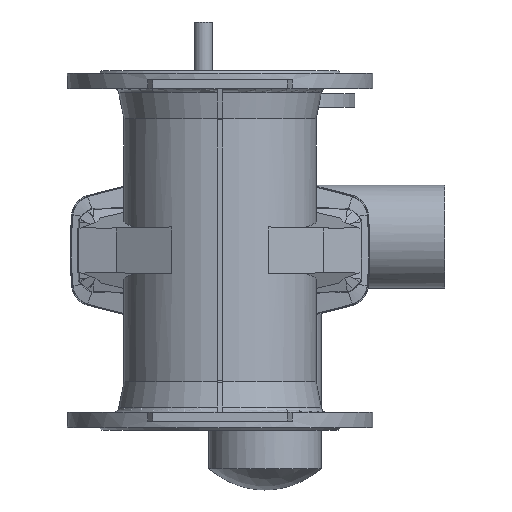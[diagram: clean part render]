
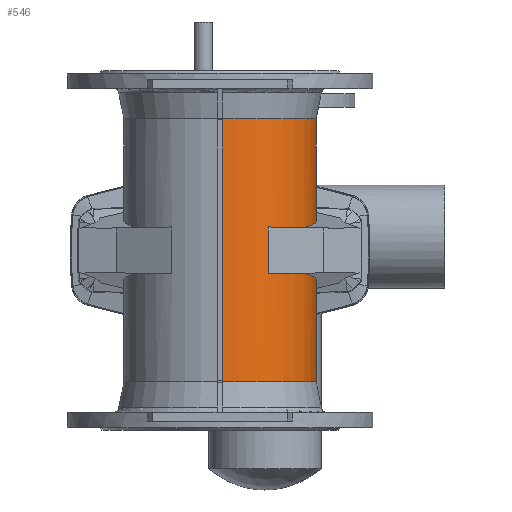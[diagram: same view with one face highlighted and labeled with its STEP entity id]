
A CAD part, front view. The second image highlights one B-rep face of the part: STEP entity #546.
In plain terms, the highlighted cylindrical face has radius 107 mm (diameter 214 mm), a partial arc.
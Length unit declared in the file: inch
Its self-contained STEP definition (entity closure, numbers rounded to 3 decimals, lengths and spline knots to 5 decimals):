
#546 = ADVANCED_FACE ( 'NONE', ( #10055 ), #10062, .T. ) ;
#980 = EDGE_CURVE ( 'NONE', #12946, #12922, #9643, .T. ) ;
#981 = EDGE_CURVE ( 'NONE', #12921, #12970, #7189, .T. ) ;
#982 = EDGE_CURVE ( 'NONE', #12946, #12989, #7188, .T. ) ;
#983 = EDGE_CURVE ( 'NONE', #9380, #12921, #9644, .T. ) ;
#984 = EDGE_CURVE ( 'NONE', #12922, #12970, #9645, .T. ) ;
#2372 = CARTESIAN_POINT ( 'NONE',  ( 0.11811, -4.21094, 0. ) ) ;
#2374 = DIRECTION ( 'NONE',  ( 0., 0., 1. ) ) ;
#2410 = CARTESIAN_POINT ( 'NONE',  ( 0., 0., -5.75916 ) ) ;
#2411 = DIRECTION ( 'NONE',  ( 0., 0., -1. ) ) ;
#2412 = DIRECTION ( 'NONE',  ( -1., 0., 0. ) ) ;
#2421 = CARTESIAN_POINT ( 'NONE',  ( 0.11811, 4.21094, 1.9474 ) ) ;
#2422 = CARTESIAN_POINT ( 'NONE',  ( 3.68193, 4.11098, 1.87054 ) ) ;
#2429 = DIRECTION ( 'NONE',  ( 0., 0., 1. ) ) ;
#2430 = CARTESIAN_POINT ( 'NONE',  ( 0.11811, 4.21094, 0. ) ) ;
#2431 = CARTESIAN_POINT ( 'NONE',  ( 5.42704, 1.00205, 1.40285 ) ) ;
#2432 = CARTESIAN_POINT ( 'NONE',  ( 3.65625, -2.09232, 0.99917 ) ) ;
#2443 = CARTESIAN_POINT ( 'NONE',  ( 0., 0., 5.75916 ) ) ;
#2444 = DIRECTION ( 'NONE',  ( 0., 0., -1. ) ) ;
#2445 = DIRECTION ( 'NONE',  ( -1., 0., 0. ) ) ;
#4042 = DIRECTION ( 'NONE',  ( -1., 0., 0. ) ) ;
#4049 = DIRECTION ( 'NONE',  ( 0., 0., 1. ) ) ;
#4050 = CARTESIAN_POINT ( 'NONE',  ( 0., 0., 0. ) ) ;
#4245 = CARTESIAN_POINT ( 'NONE',  ( 0.11811, 4.21094, 0. ) ) ;
#4247 = CARTESIAN_POINT ( 'NONE',  ( 2.1063, -3.64822, 7.87402 ) ) ;
#4251 = CARTESIAN_POINT ( 'NONE',  ( 3.68193, 4.11098, -1.87054 ) ) ;
#4252 = CARTESIAN_POINT ( 'NONE',  ( 5.42704, 1.00205, -1.40285 ) ) ;
#4256 = CARTESIAN_POINT ( 'NONE',  ( 0.11811, 4.21094, -1.9474 ) ) ;
#4257 = CARTESIAN_POINT ( 'NONE',  ( 3.65625, -2.09232, -0.99917 ) ) ;
#4258 = DIRECTION ( 'NONE',  ( 0., 0., -1. ) ) ;
#4259 = CARTESIAN_POINT ( 'NONE',  ( 2.75523, -3.27355, 1.0149 ) ) ;
#4260 = CARTESIAN_POINT ( 'NONE',  ( 3.28407, -2.74269, 1.00567 ) ) ;
#4261 = DIRECTION ( 'NONE',  ( 0., 0., -1. ) ) ;
#4262 = CARTESIAN_POINT ( 'NONE',  ( 3.28407, -2.74269, -1.00567 ) ) ;
#4263 = CARTESIAN_POINT ( 'NONE',  ( 3.65625, -2.09232, 0.99917 ) ) ;
#4265 = CARTESIAN_POINT ( 'NONE',  ( 2.1063, -3.64822, 1.02623 ) ) ;
#4267 = CARTESIAN_POINT ( 'NONE',  ( 3.65625, -2.09232, -0.99917 ) ) ;
#4269 = CARTESIAN_POINT ( 'NONE',  ( 2.75523, -3.27355, -1.0149 ) ) ;
#4270 = CARTESIAN_POINT ( 'NONE',  ( 2.1063, -3.64822, -1.02623 ) ) ;
#5624 = ORIENTED_EDGE ( 'NONE', *, *, #7561, .T. ) ;
#5639 = ORIENTED_EDGE ( 'NONE', *, *, #7557, .F. ) ;
#5655 = ORIENTED_EDGE ( 'NONE', *, *, #983, .F. ) ;
#5676 = ORIENTED_EDGE ( 'NONE', *, *, #7547, .F. ) ;
#5749 = ORIENTED_EDGE ( 'NONE', *, *, #7551, .F. ) ;
#5766 = ORIENTED_EDGE ( 'NONE', *, *, #984, .T. ) ;
#5775 = ORIENTED_EDGE ( 'NONE', *, *, #7558, .T. ) ;
#5809 = ORIENTED_EDGE ( 'NONE', *, *, #981, .F. ) ;
#5814 = ORIENTED_EDGE ( 'NONE', *, *, #980, .T. ) ;
#5817 = ORIENTED_EDGE ( 'NONE', *, *, #982, .F. ) ;
#6824 = AXIS2_PLACEMENT_3D ( 'NONE', #2410, #2411, #2412 ) ;
#6826 = AXIS2_PLACEMENT_3D ( 'NONE', #2443, #2444, #2445 ) ;
#7188 = LINE ( 'NONE', #4245, #7192 ) ;
#7189 = LINE ( 'NONE', #4247, #7190 ) ;
#7190 = VECTOR ( 'NONE', #4258, 39.37008 ) ;
#7192 = VECTOR ( 'NONE', #4261, 39.37008 ) ;
#7547 = EDGE_CURVE ( 'NONE', #12957, #12980, #8979, .T. ) ;
#7551 = EDGE_CURVE ( 'NONE', #12989, #12957, #8992, .T. ) ;
#7557 = EDGE_CURVE ( 'NONE', #9392, #9380, #9713, .T. ) ;
#7558 = EDGE_CURVE ( 'NONE', #9392, #9433, #9000, .T. ) ;
#7561 = EDGE_CURVE ( 'NONE', #9433, #12980, #8998, .T. ) ;
#7593 = AXIS2_PLACEMENT_3D ( 'NONE', #4050, #4049, #4042 ) ;
#8979 = LINE ( 'NONE', #2372, #8983 ) ;
#8983 = VECTOR ( 'NONE', #2374, 39.37008 ) ;
#8992 = CIRCLE ( 'NONE', #6824, 4.2126 ) ;
#8998 = CIRCLE ( 'NONE', #6826, 4.2126 ) ;
#9000 = LINE ( 'NONE', #2430, #9002 ) ;
#9002 = VECTOR ( 'NONE', #2429, 39.37008 ) ;
#9380 = VERTEX_POINT ( 'NONE', #12311 ) ;
#9392 = VERTEX_POINT ( 'NONE', #12323 ) ;
#9433 = VERTEX_POINT ( 'NONE', #12363 ) ;
#9643 =( BOUNDED_CURVE ( )  B_SPLINE_CURVE ( 3, ( #4256, #4251, #4252, #4257 ),
 .UNSPECIFIED., .F., .F. ) 
 B_SPLINE_CURVE_WITH_KNOTS ( ( 4, 4 ),
 ( 0.15281, 2.21534 ),
 .UNSPECIFIED. ) 
 CURVE ( )  GEOMETRIC_REPRESENTATION_ITEM ( )  RATIONAL_B_SPLINE_CURVE ( ( 1., 0.676, 0.676, 1. ) ) 
 REPRESENTATION_ITEM ( '' )  );
#9644 =( BOUNDED_CURVE ( )  B_SPLINE_CURVE ( 3, ( #4263, #4260, #4259, #4265 ),
 .UNSPECIFIED., .F., .F. ) 
 B_SPLINE_CURVE_WITH_KNOTS ( ( 4, 4 ),
 ( 3.66136, 4.18879 ),
 .UNSPECIFIED. ) 
 CURVE ( )  GEOMETRIC_REPRESENTATION_ITEM ( )  RATIONAL_B_SPLINE_CURVE ( ( 1., 0.977, 0.977, 1. ) ) 
 REPRESENTATION_ITEM ( '' )  );
#9645 =( BOUNDED_CURVE ( )  B_SPLINE_CURVE ( 3, ( #4267, #4262, #4269, #4270 ),
 .UNSPECIFIED., .F., .F. ) 
 B_SPLINE_CURVE_WITH_KNOTS ( ( 4, 4 ),
 ( 3.66136, 4.18879 ),
 .UNSPECIFIED. ) 
 CURVE ( )  GEOMETRIC_REPRESENTATION_ITEM ( )  RATIONAL_B_SPLINE_CURVE ( ( 1., 0.977, 0.977, 1. ) ) 
 REPRESENTATION_ITEM ( '' )  );
#9713 =( BOUNDED_CURVE ( )  B_SPLINE_CURVE ( 3, ( #2421, #2422, #2431, #2432 ),
 .UNSPECIFIED., .F., .F. ) 
 B_SPLINE_CURVE_WITH_KNOTS ( ( 4, 4 ),
 ( 0.15281, 2.21534 ),
 .UNSPECIFIED. ) 
 CURVE ( )  GEOMETRIC_REPRESENTATION_ITEM ( )  RATIONAL_B_SPLINE_CURVE ( ( 1., 0.676, 0.676, 1. ) ) 
 REPRESENTATION_ITEM ( '' )  );
#10055 = FACE_OUTER_BOUND ( 'NONE', #13037, .T. ) ;
#10062 = CYLINDRICAL_SURFACE ( 'NONE', #7593, 4.2126 ) ;
#12311 = CARTESIAN_POINT ( 'NONE',  ( 3.65625, -2.09232, 0.99917 ) ) ;
#12323 = CARTESIAN_POINT ( 'NONE',  ( 0.11811, 4.21094, 1.9474 ) ) ;
#12363 = CARTESIAN_POINT ( 'NONE',  ( 0.11811, 4.21094, 5.75916 ) ) ;
#12606 = CARTESIAN_POINT ( 'NONE',  ( 2.1063, -3.64822, 1.02623 ) ) ;
#12607 = CARTESIAN_POINT ( 'NONE',  ( 3.65625, -2.09232, -0.99917 ) ) ;
#12631 = CARTESIAN_POINT ( 'NONE',  ( 0.11811, 4.21094, -1.9474 ) ) ;
#12642 = CARTESIAN_POINT ( 'NONE',  ( 0.11811, -4.21094, -5.75916 ) ) ;
#12655 = CARTESIAN_POINT ( 'NONE',  ( 2.1063, -3.64822, -1.02623 ) ) ;
#12665 = CARTESIAN_POINT ( 'NONE',  ( 0.11811, -4.21094, 5.75916 ) ) ;
#12674 = CARTESIAN_POINT ( 'NONE',  ( 0.11811, 4.21094, -5.75916 ) ) ;
#12921 = VERTEX_POINT ( 'NONE', #12606 ) ;
#12922 = VERTEX_POINT ( 'NONE', #12607 ) ;
#12946 = VERTEX_POINT ( 'NONE', #12631 ) ;
#12957 = VERTEX_POINT ( 'NONE', #12642 ) ;
#12970 = VERTEX_POINT ( 'NONE', #12655 ) ;
#12980 = VERTEX_POINT ( 'NONE', #12665 ) ;
#12989 = VERTEX_POINT ( 'NONE', #12674 ) ;
#13037 = EDGE_LOOP ( 'NONE', ( #5676, #5749, #5817, #5814, #5766, #5809, #5655, #5639, #5775, #5624 ) ) ;
